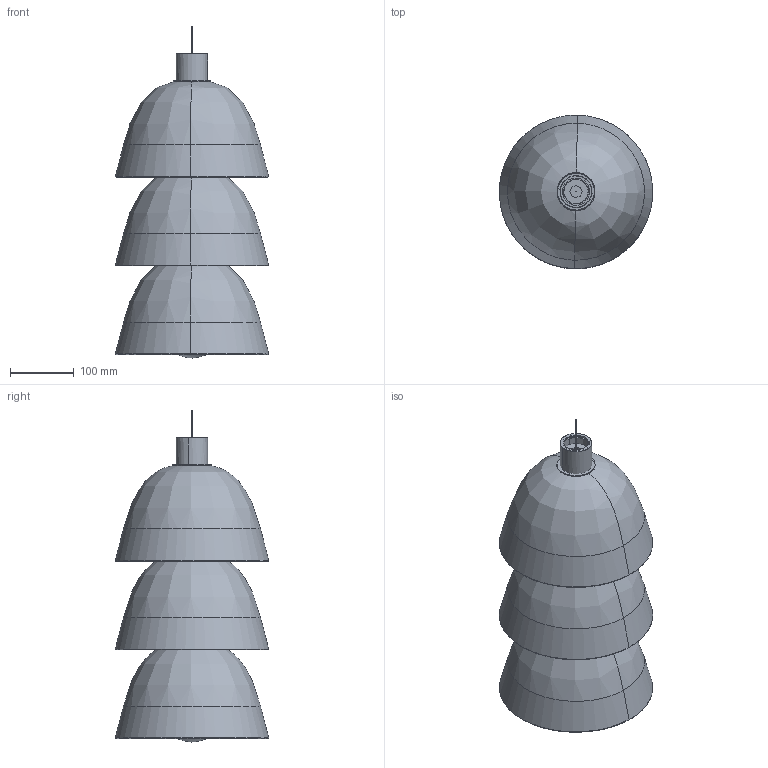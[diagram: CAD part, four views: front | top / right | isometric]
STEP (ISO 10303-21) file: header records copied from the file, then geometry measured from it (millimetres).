
FILE_DESCRIPTION(/* description */ (''),/* implementation_level */ '2;1');
FILE_NAME(/* name */ 'SEM.000225',/* time_stamp */ '2023-05-11T17:13:40+02:00',/* author */ (''),/* organization */ (''),/* preprocessor_version */ 'ST-DEVELOPER v16.5',/* originating_system */ 'Rhino 7.29',/* authorisation */ '');
FILE_SCHEMA (('CONFIG_CONTROL_DESIGN'));
Length unit declared in the file: millimetre
Products named in the file (9): Document; MET.006349; PLA.005260; MET.005642; VET.005135; VET.005127; PLA.005261; PLA.005262; VET.005123
Assembly tree (17 placements, depth 2):
  Document
    MET.006349
    PLA.005260
    MET.005642
    VET.005135
    VET.005127
    PLA.005261  x7
    PLA.005262  x3
    VET.005123  x2
Bounding box: 240.17 x 240.31 x 520.23 mm (x, y, z)
Volume: 677311.5 mm3; surface area: 1113149.6 mm2
Topology: 20 solids, 23 shells, 1043 faces, 2448 edges, 1382 vertices
Faces by surface type: bspline 820, cylinder 151, plane 72
Entity records: 17398 total; most frequent: CARTESIAN_POINT 12175, ORIENTED_EDGE 1448, EDGE_CURVE 730, VERTEX_POINT 464, EDGE_LOOP 340, ADVANCED_FACE 307, FACE_OUTER_BOUND 307, B_SPLINE_CURVE_WITH_KNOTS 194
